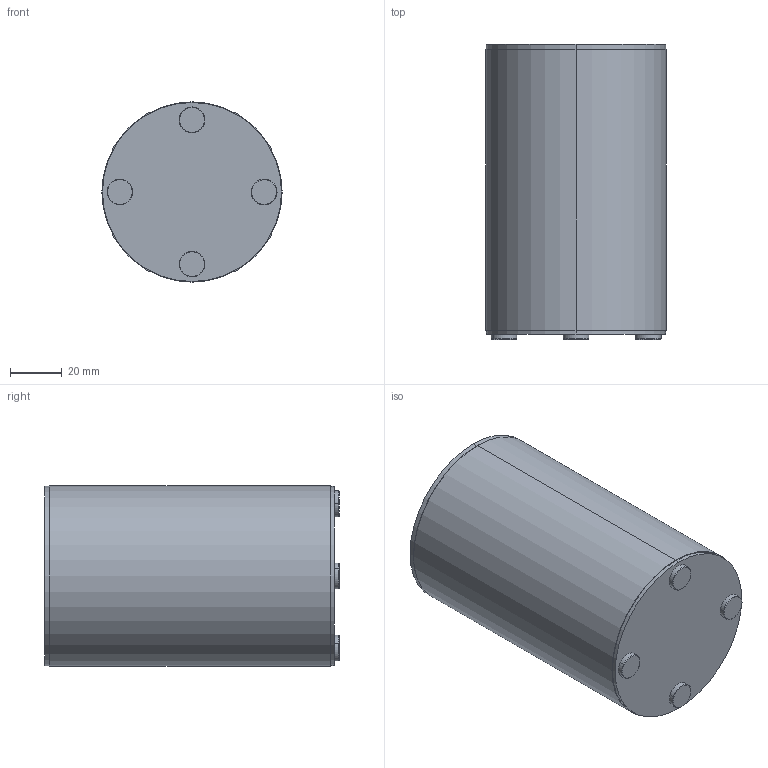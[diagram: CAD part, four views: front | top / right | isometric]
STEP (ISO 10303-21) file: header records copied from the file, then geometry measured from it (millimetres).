
FILE_DESCRIPTION (( 'STEP AP214' ), '1' );
FILE_NAME ('Kubek na szczoteczki Demitti.STEP', '2024-07-19T10:26:37', ( '' ), ( '' ), 'SwSTEP 2.0', 'SolidWorks 2021', '' );
FILE_SCHEMA (( 'AUTOMOTIVE_DESIGN' ));
Length unit declared in the file: millimetre
Products named in the file (8): 08-003-0110-S-01-02; 08-003-0110-S-01-01; stopka gumowa 10mm_7mm; 08-003-0110-S-01-00; Kubek na szczoteczki Demitti; 08-003-0110-S-02-02; 08-003-0110-S-02-00; 08-003-0110-S-02-01
Assembly tree (10 placements, depth 3):
  Kubek na szczoteczki Demitti
    08-003-0110-S-01-00
      08-003-0110-S-01-01
      08-003-0110-S-01-02
    08-003-0110-S-02-00
      08-003-0110-S-02-01
      08-003-0110-S-02-02
    stopka gumowa 10mm_7mm  x4
Bounding box: 70 x 114.5 x 70 mm (x, y, z)
Volume: 56549.9 mm3; surface area: 61704.4 mm2
Topology: 8 solids, 8 shells, 77 faces, 163 edges, 106 vertices
Faces by surface type: cylinder 44, plane 25, torus 8
Entity records: 1805 total; most frequent: DIRECTION 313, CARTESIAN_POINT 256, ORIENTED_EDGE 230, AXIS2_PLACEMENT_3D 133, EDGE_CURVE 115, VERTEX_POINT 76, EDGE_LOOP 69, CIRCLE 68
